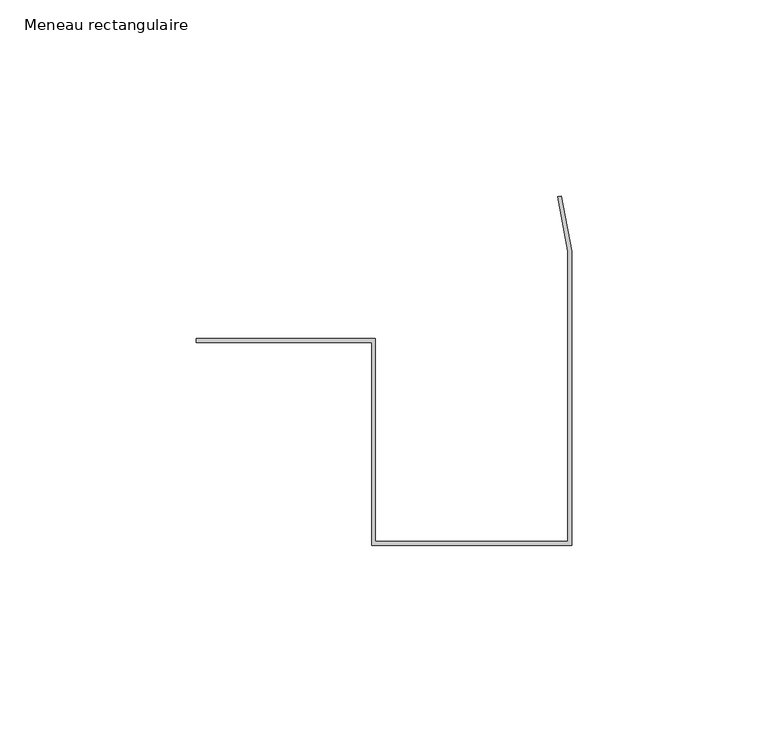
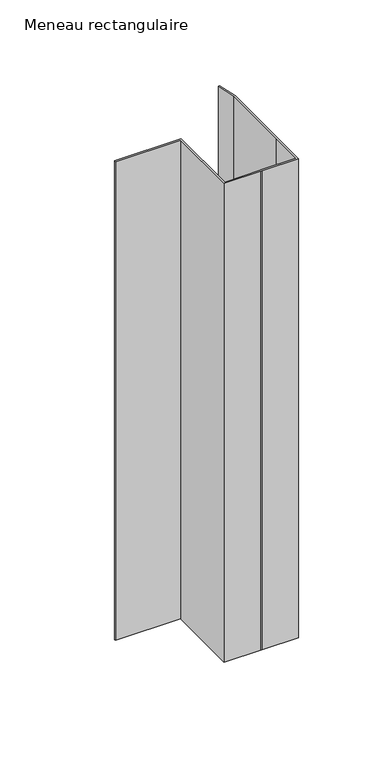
"""IFC4 building model written with IfcOpenShell, lengths in millimetres: member geometry, Meneau rectangulaire : Jonction contre mur Droite H."""

import ifcopenshell
import ifcopenshell.guid

model = None  # the IFC model being written
_history = None  # IfcOwnerHistory: only IFC2X3 demands one
_inside = {}  # id of a spatial element -> (the spatial element, [elements in it])
_under = {}  # id of a project, library or spatial element -> (it, [spatial elements below it])
_declared = {}  # id of a project -> (the project, [libraries it declares])
_typed = {}  # id of a type object -> (the type object, [elements of that type])
_made_of = {}  # id of a material, layer set ... -> (it, [elements and type objects made of it])


def new_model(schema):
    """Start an empty IFC model of exactly this schema.

    Asked for "IFC4X3", IfcOpenShell would pick the latest addendum, in which some entities
    have other attributes; the version numbers below select the first issue.
    IFC2X3 requires an IfcOwnerHistory on every rooted entity: one is made here for all.
    """
    global model, _history
    if schema == "IFC4X3":
        model = ifcopenshell.file(schema_version=(4, 3, 0, 0))
    else:
        model = ifcopenshell.file(schema=schema)
    _inside.clear()
    _under.clear()
    _declared.clear()
    _typed.clear()
    _made_of.clear()
    _history = None
    if model.schema == "IFC2X3":
        org = make("IfcOrganization", Name="unknown")
        user = make(
            "IfcPersonAndOrganization",
            ThePerson=make("IfcPerson", FamilyName="unknown"),
            TheOrganization=org,
        )
        app = make(
            "IfcApplication",
            ApplicationDeveloper=org,
            Version="unknown",
            ApplicationFullName="unknown",
            ApplicationIdentifier="unknown",
        )
        _history = make(
            "IfcOwnerHistory",
            OwningUser=user,
            OwningApplication=app,
            ChangeAction="ADDED",
            CreationDate=0,
        )
    return model


def make(cls, **values):
    """One entity of the class cls with the attributes given. An attribute that is None is left unset."""
    return model.create_entity(
        cls, **{name: value for name, value in values.items() if value is not None}
    )


def rooted(cls, **values):
    """An entity with a GlobalId (a new one), such as an element, a storey or a relation."""
    return make(cls, GlobalId=ifcopenshell.guid.new(), OwnerHistory=_history, **values)


def si_unit(unit_type, name, prefix=None):
    """IfcSIUnit, for example si_unit("LENGTHUNIT", "METRE", prefix="MILLI")."""
    return make("IfcSIUnit", UnitType=unit_type, Prefix=prefix, Name=name)


def assignment(units):
    """IfcUnitAssignment: the units of a project."""
    return None if units is None else make("IfcUnitAssignment", Units=units)


def point(xyz):
    """IfcCartesianPoint."""
    return None if xyz is None else make("IfcCartesianPoint", Coordinates=xyz)


def direction(xyz):
    """IfcDirection."""
    return None if xyz is None else make("IfcDirection", DirectionRatios=xyz)


def frame(location, z_axis=None, x_axis=None):
    """IfcAxis2Placement3D, a coordinate frame: its origin and axes. An axis left out is left unset."""
    return make(
        "IfcAxis2Placement3D",
        Location=point(location),
        Axis=direction(z_axis),
        RefDirection=direction(x_axis),
    )


def origin():
    """The frame at (0, 0, 0) with its axes left unset."""
    return frame((0.0, 0.0, 0.0))


def place(relative_to, where):
    """IfcLocalPlacement: puts the frame where relative to a parent placement (None: the world)."""
    return make(
        "IfcLocalPlacement", PlacementRelTo=relative_to, RelativePlacement=where
    )


def context(
    kind, dimensions, precision=None, world=None, true_north=None, identifier=None
):
    """IfcGeometricRepresentationContext, for example the 3D "Model" context."""
    return make(
        "IfcGeometricRepresentationContext",
        ContextIdentifier=identifier,
        ContextType=kind,
        CoordinateSpaceDimension=dimensions,
        Precision=precision,
        WorldCoordinateSystem=world,
        TrueNorth=true_north,
    )


def project(units=None, contexts=None):
    """IfcProject with its units and contexts."""
    return rooted(
        "IfcProject",
        Name="project",
        RepresentationContexts=contexts,
        UnitsInContext=assignment(units),
    )


def spatial(cls, under=None, at=None, **own):
    """A site, building, storey or space (cls), placed at a placement, below another one or the project."""
    s = rooted(cls, ObjectPlacement=at, **own)
    if under is not None:
        _under.setdefault(under.id(), (under, []))[1].append(s)
    return s


def polyline(points):
    """IfcPolyline through the points."""
    return make("IfcPolyline", Points=[point(p) for p in points])


def outline(outer, holes=None, kind="AREA"):
    """IfcArbitraryClosedProfileDef: a profile drawn as a closed curve; with holes, ...WithVoids."""
    if holes is None:
        return make("IfcArbitraryClosedProfileDef", ProfileType=kind, OuterCurve=outer)
    return make(
        "IfcArbitraryProfileDefWithVoids",
        ProfileType=kind,
        OuterCurve=outer,
        InnerCurves=holes,
    )


def extrude(swept, where, along, depth):
    """IfcExtrudedAreaSolid: the profile swept, set in the frame where, extruded along a direction by depth."""
    return make(
        "IfcExtrudedAreaSolid",
        SweptArea=swept,
        Position=where,
        ExtrudedDirection=direction(along),
        Depth=depth,
    )


def shape(context_of_items, identifier, shape_type, items):
    """IfcShapeRepresentation: the items that make up one representation, for example the "Body"."""
    return make(
        "IfcShapeRepresentation",
        ContextOfItems=context_of_items,
        RepresentationIdentifier=identifier,
        RepresentationType=shape_type,
        Items=items,
    )


def source(mapping_origin, context_of_items, identifier, shape_type, items):
    """IfcRepresentationMap: a shape defined once, which mapped items show again and again."""
    return make(
        "IfcRepresentationMap",
        MappingOrigin=mapping_origin,
        MappedRepresentation=shape(context_of_items, identifier, shape_type, items),
    )


def transform(
    local_origin,
    x_axis=None,
    y_axis=None,
    z_axis=None,
    scale=None,
    scale2=None,
    scale3=None,
    uniform=True,
):
    """IfcCartesianTransformationOperator3D, or its non-uniform kind. x_axis, y_axis, z_axis: its Axis1, 2, 3."""
    if uniform:
        return make(
            "IfcCartesianTransformationOperator3D",
            Axis1=direction(x_axis),
            Axis2=direction(y_axis),
            LocalOrigin=point(local_origin),
            Scale=scale,
            Axis3=direction(z_axis),
        )
    return make(
        "IfcCartesianTransformationOperator3DnonUniform",
        Axis1=direction(x_axis),
        Axis2=direction(y_axis),
        LocalOrigin=point(local_origin),
        Scale=scale,
        Axis3=direction(z_axis),
        Scale2=scale2,
        Scale3=scale3,
    )


def mapped(mapping_source, mapping_target):
    """IfcMappedItem: shows the shape of a source again, moved by a transform."""
    return make(
        "IfcMappedItem", MappingSource=mapping_source, MappingTarget=mapping_target
    )


def made_of(thing, what):
    """Note that an element or type object is made of a material, layer set ...; save() writes the relation."""
    if what is not None:
        _made_of.setdefault(what.id(), (what, []))[1].append(thing)
    return thing


def element(
    cls,
    number,
    at=None,
    inside=None,
    cuts=None,
    type_object=None,
    material=None,
    context=None,
    identifier="Body",
    shape_type=None,
    held_by="IfcProductDefinitionShape",
    body=None,
    shapes=None,
    **own,
):
    """One element of the class cls, such as IfcWall. Its Tag is "e" and its number.

    at: its placement. inside: the storey or other place that contains it. cuts: it is an
    opening in that element (IfcRelVoidsElement). A single representation is given by context,
    identifier, shape_type and body (its items); several are given by shapes. held_by: the class
    of the entity that holds the representations. save() writes the other relations.
    """
    e = rooted(cls, Tag="e%d" % number, ObjectPlacement=at, **own)
    if body is not None:
        shapes = [shape(context, identifier, shape_type, body)]
    if shapes is not None:
        e.Representation = make(held_by, Representations=shapes)
    if inside is not None:
        _inside.setdefault(inside.id(), (inside, []))[1].append(e)
    if cuts is not None:
        rooted(
            "IfcRelVoidsElement", RelatingBuildingElement=cuts, RelatedOpeningElement=e
        )
    if type_object is not None:
        _typed.setdefault(type_object.id(), (type_object, []))[1].append(e)
    return made_of(e, material)


def aggregate(whole, parts):
    """IfcRelAggregates: a whole, such as a stair, and the parts it consists of."""
    return rooted("IfcRelAggregates", RelatingObject=whole, RelatedObjects=parts)


def save(model, path):
    """Write the relations noted so far, then the file.

    IfcRelAggregates (storeys below a building ...), IfcRelContainedInSpatialStructure (elements
    in a storey), IfcRelDefinesByType, IfcRelAssociatesMaterial and IfcRelDeclares: one each for
    every whole, place, type object, material and project.
    """
    for whole, parts in _under.values():
        aggregate(whole, parts)
    for where, things in _inside.values():
        rooted(
            "IfcRelContainedInSpatialStructure",
            RelatedElements=things,
            RelatingStructure=where,
        )
    for kind, things in _typed.values():
        rooted("IfcRelDefinesByType", RelatedObjects=things, RelatingType=kind)
    for what, things in _made_of.values():
        rooted("IfcRelAssociatesMaterial", RelatedObjects=things, RelatingMaterial=what)
    for by, libraries in _declared.values():
        rooted("IfcRelDeclares", RelatingContext=by, RelatedDefinitions=libraries)
    model.write(path)


def meneau_rectangulaire_91452ccf(model_context):
    return source(origin(), model_context, "Body", "SweptSolid", [
        extrude(outline(polyline([(-1.0, 26.3798616), (-3.6043568, 40.2461331), (-2.6384309, 40.4275528), (0.0, 26.3798616), (0.0, -23.6201384), (0.0, -48.6201384), (-25.0, -48.6201384), (-26.0, -48.6201384), (-51.0, -48.6201384), (-51.0, 3.1), (-95.6686418, 3.1), (-95.6686418, 4.1), (-50.0, 4.1), (-50.0, -47.6201384), (-26.0, -47.6201384), (-25.0, -47.6201384), (-1.0, -47.6201384), (-1.0, -23.6201384), (-1.0, 26.3798616)])), frame((0.0, 0.0, -347.0), z_axis=(0.0, 0.0, 1.0), x_axis=(1.0, 0.0, 0.0)), (0.0, 0.0, 1.0), 347.0),
    ])


if __name__ == "__main__":
    model = new_model("IFC4")
    model_context = context("Model", 3, world=origin())
    ifc_project = project(units=[si_unit("LENGTHUNIT", "METRE", prefix="MILLI")], contexts=[model_context])
    site = spatial("IfcSite", under=ifc_project)
    building = spatial("IfcBuilding", under=site)
    placement = place(None, origin())
    meneau_rectangulaire_shape = meneau_rectangulaire_91452ccf(model_context)
    element("IfcMember", 1, ObjectType="Meneau rectangulaire : Jonction contre mur Droite H", at=placement, inside=building, context=model_context, shape_type="MappedRepresentation", body=[
        mapped(meneau_rectangulaire_shape, transform((0.0, 0.0, 0.0), x_axis=(1.0, 0.0, 0.0), y_axis=(0.0, 1.0, 0.0), z_axis=(0.0, 0.0, 1.0))),
    ])
    save(model, "model.ifc")
